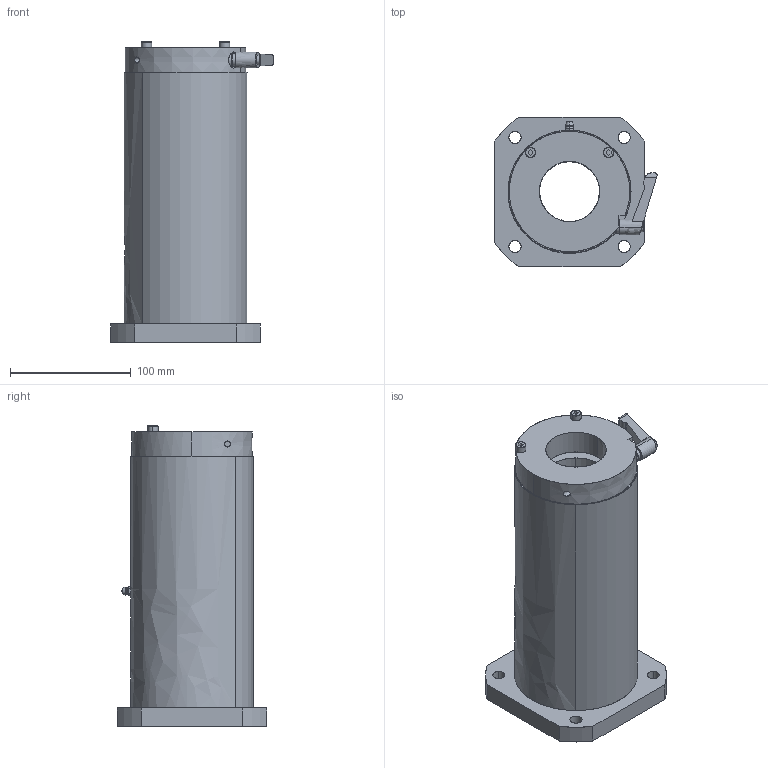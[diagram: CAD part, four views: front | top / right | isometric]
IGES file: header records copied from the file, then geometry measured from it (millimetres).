
Start section: SolidWorks IGES file using analytic representation for surfaces
Global section: file name: C:\Users\yamad\Desktop\IGES\LFWK50-OH-C.IGS; native system: SolidWorks 2019; preprocessor: SolidWorks 2019; author: yamad; date: 230626.171631; units: millimetre
Bounding box: 134.7 x 124 x 249 mm (x, y, z)
Surface area: 186614.5 mm2 (no closed solid volume)
Topology: 0 solids, 0 shells, 226 faces, 5972 edges, 5970 vertices
Faces by surface type: bspline 118, revolution 108
